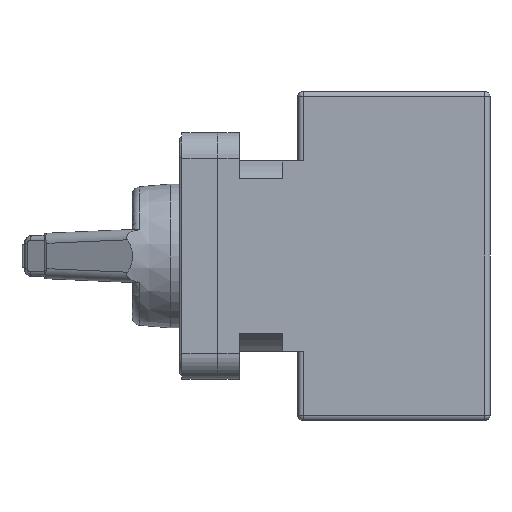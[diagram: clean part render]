
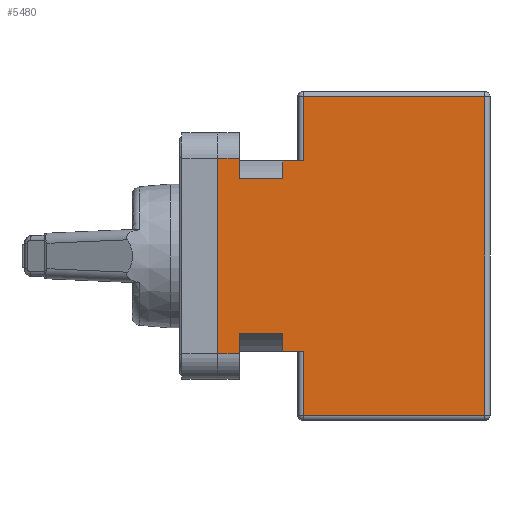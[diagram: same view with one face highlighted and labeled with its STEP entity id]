
A CAD part, left-side view. The second image highlights one B-rep face of the part: STEP entity #5480.
In plain terms, the highlighted planar face has unit normal (-1, 0, 0).
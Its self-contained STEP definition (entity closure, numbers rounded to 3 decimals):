
#1 = ORIENTED_EDGE ( 'NONE', *, *, #8075, .F. ) ;
#186 = ORIENTED_EDGE ( 'NONE', *, *, #699, .F. ) ;
#248 = DIRECTION ( 'NONE',  ( 0., 0., 1. ) ) ;
#278 = DIRECTION ( 'NONE',  ( 0., 1., 0. ) ) ;
#413 = PLANE ( 'NONE',  #4287 ) ;
#692 = VERTEX_POINT ( 'NONE', #13201 ) ;
#699 = EDGE_CURVE ( 'NONE', #10065, #3648, #7241, .T. ) ;
#709 = EDGE_CURVE ( 'NONE', #10572, #12108, #11613, .T. ) ;
#825 = DIRECTION ( 'NONE',  ( 0., 1., 0. ) ) ;
#978 = LINE ( 'NONE', #12048, #6735 ) ;
#1130 = VECTOR ( 'NONE', #1743, 1000. ) ;
#1159 = VECTOR ( 'NONE', #7663, 1000. ) ;
#1298 = DIRECTION ( 'NONE',  ( 0., 0., 1. ) ) ;
#1433 = EDGE_CURVE ( 'NONE', #8106, #1542, #9748, .T. ) ;
#1542 = VERTEX_POINT ( 'NONE', #10440 ) ;
#1643 = VECTOR ( 'NONE', #3227, 1000. ) ;
#1689 = EDGE_CURVE ( 'NONE', #9930, #10065, #9572, .T. ) ;
#1723 = VERTEX_POINT ( 'NONE', #5391 ) ;
#1726 = CARTESIAN_POINT ( 'NONE',  ( -24., 1., -31. ) ) ;
#1736 = ORIENTED_EDGE ( 'NONE', *, *, #709, .T. ) ;
#1743 = DIRECTION ( 'NONE',  ( 0., 1., 0. ) ) ;
#1833 = EDGE_LOOP ( 'NONE', ( #13405, #5772, #5024, #1736, #8441, #3825, #7192, #6399, #6804, #9221, #7552, #1, #13166, #7541, #186, #9654 ) ) ;
#2289 = CARTESIAN_POINT ( 'NONE',  ( -24., 1., 31. ) ) ;
#2575 = DIRECTION ( 'NONE',  ( 0., 0., -1. ) ) ;
#2652 = VECTOR ( 'NONE', #825, 1000. ) ;
#2788 = CARTESIAN_POINT ( 'NONE',  ( -24., 48.8, 18.5 ) ) ;
#2980 = EDGE_CURVE ( 'NONE', #1723, #7812, #7555, .T. ) ;
#3227 = DIRECTION ( 'NONE',  ( 0., 0., 1. ) ) ;
#3252 = CARTESIAN_POINT ( 'NONE',  ( -24., 40.3, 15. ) ) ;
#3315 = LINE ( 'NONE', #4041, #8726 ) ;
#3389 = EDGE_CURVE ( 'NONE', #692, #7289, #12100, .T. ) ;
#3648 = VERTEX_POINT ( 'NONE', #12965 ) ;
#3670 = VECTOR ( 'NONE', #13063, 1000. ) ;
#3675 = VERTEX_POINT ( 'NONE', #11937 ) ;
#3703 = VERTEX_POINT ( 'NONE', #11992 ) ;
#3791 = CARTESIAN_POINT ( 'NONE',  ( -24., 1., 0. ) ) ;
#3825 = ORIENTED_EDGE ( 'NONE', *, *, #12862, .T. ) ;
#4041 = CARTESIAN_POINT ( 'NONE',  ( -24., 53., 19. ) ) ;
#4090 = DIRECTION ( 'NONE',  ( 0., 0., 1. ) ) ;
#4287 = AXIS2_PLACEMENT_3D ( 'NONE', #11153, #9036, #2575 ) ;
#4309 = VECTOR ( 'NONE', #13526, 1000. ) ;
#4390 = EDGE_CURVE ( 'NONE', #3675, #3648, #5603, .T. ) ;
#4534 = DIRECTION ( 'NONE',  ( 0., 0., 1. ) ) ;
#4722 = VERTEX_POINT ( 'NONE', #3252 ) ;
#4938 = CARTESIAN_POINT ( 'NONE',  ( -24., 40.3, 15. ) ) ;
#5024 = ORIENTED_EDGE ( 'NONE', *, *, #12587, .T. ) ;
#5391 = CARTESIAN_POINT ( 'NONE',  ( -24., 40.3, 18.5 ) ) ;
#5480 = ADVANCED_FACE ( 'NONE', ( #13847 ), #413, .F. ) ;
#5560 = DIRECTION ( 'NONE',  ( 0., 0., -1. ) ) ;
#5603 = LINE ( 'NONE', #12071, #8162 ) ;
#5726 = VECTOR ( 'NONE', #1298, 1000. ) ;
#5772 = ORIENTED_EDGE ( 'NONE', *, *, #3389, .T. ) ;
#5888 = CARTESIAN_POINT ( 'NONE',  ( -24., 53., -19. ) ) ;
#5996 = VECTOR ( 'NONE', #8072, 1000. ) ;
#6195 = VECTOR ( 'NONE', #10359, 1000. ) ;
#6276 = CARTESIAN_POINT ( 'NONE',  ( -24., 48.8, 15. ) ) ;
#6399 = ORIENTED_EDGE ( 'NONE', *, *, #13895, .F. ) ;
#6552 = CARTESIAN_POINT ( 'NONE',  ( -24., 0., 31. ) ) ;
#6561 = VECTOR ( 'NONE', #10250, 1000. ) ;
#6565 = LINE ( 'NONE', #6552, #3670 ) ;
#6572 = CARTESIAN_POINT ( 'NONE',  ( -24., 0., -31. ) ) ;
#6603 = EDGE_CURVE ( 'NONE', #4722, #8106, #7225, .T. ) ;
#6660 = EDGE_CURVE ( 'NONE', #13020, #3675, #11599, .T. ) ;
#6735 = VECTOR ( 'NONE', #5560, 1000. ) ;
#6804 = ORIENTED_EDGE ( 'NONE', *, *, #6603, .T. ) ;
#6879 = EDGE_CURVE ( 'NONE', #12108, #3703, #6565, .T. ) ;
#7192 = ORIENTED_EDGE ( 'NONE', *, *, #2980, .F. ) ;
#7220 = CARTESIAN_POINT ( 'NONE',  ( -24., 40.3, -15. ) ) ;
#7225 = LINE ( 'NONE', #4938, #1130 ) ;
#7241 = LINE ( 'NONE', #10105, #11266 ) ;
#7268 = CARTESIAN_POINT ( 'NONE',  ( -24., 53., 19. ) ) ;
#7289 = VERTEX_POINT ( 'NONE', #7399 ) ;
#7308 = VECTOR ( 'NONE', #248, 1000. ) ;
#7399 = CARTESIAN_POINT ( 'NONE',  ( -24., 36.4, -31. ) ) ;
#7541 = ORIENTED_EDGE ( 'NONE', *, *, #4390, .T. ) ;
#7552 = ORIENTED_EDGE ( 'NONE', *, *, #11773, .F. ) ;
#7555 = LINE ( 'NONE', #2788, #4309 ) ;
#7651 = LINE ( 'NONE', #9938, #7308 ) ;
#7663 = DIRECTION ( 'NONE',  ( 0., -1., 0. ) ) ;
#7686 = VERTEX_POINT ( 'NONE', #10381 ) ;
#7812 = VERTEX_POINT ( 'NONE', #10896 ) ;
#8072 = DIRECTION ( 'NONE',  ( 0., 0., -1. ) ) ;
#8075 = EDGE_CURVE ( 'NONE', #13020, #7686, #3315, .T. ) ;
#8106 = VERTEX_POINT ( 'NONE', #6276 ) ;
#8122 = LINE ( 'NONE', #7268, #10284 ) ;
#8162 = VECTOR ( 'NONE', #4534, 1000. ) ;
#8441 = ORIENTED_EDGE ( 'NONE', *, *, #6879, .T. ) ;
#8726 = VECTOR ( 'NONE', #4090, 1000. ) ;
#8748 = LINE ( 'NONE', #11586, #2652 ) ;
#9036 = DIRECTION ( 'NONE',  ( 1., 0., 0. ) ) ;
#9101 = CARTESIAN_POINT ( 'NONE',  ( -24., 40.3, -18.5 ) ) ;
#9146 = CARTESIAN_POINT ( 'NONE',  ( -24., 36.4, 0. ) ) ;
#9221 = ORIENTED_EDGE ( 'NONE', *, *, #1433, .T. ) ;
#9572 = LINE ( 'NONE', #10759, #1643 ) ;
#9654 = ORIENTED_EDGE ( 'NONE', *, *, #1689, .F. ) ;
#9748 = LINE ( 'NONE', #13507, #6561 ) ;
#9930 = VERTEX_POINT ( 'NONE', #9101 ) ;
#9938 = CARTESIAN_POINT ( 'NONE',  ( -24., 40.3, 15. ) ) ;
#10065 = VERTEX_POINT ( 'NONE', #7220 ) ;
#10105 = CARTESIAN_POINT ( 'NONE',  ( -24., 40.3, -15. ) ) ;
#10250 = DIRECTION ( 'NONE',  ( 0., 0., 1. ) ) ;
#10284 = VECTOR ( 'NONE', #13710, 1000. ) ;
#10359 = DIRECTION ( 'NONE',  ( 0., -1., 0. ) ) ;
#10381 = CARTESIAN_POINT ( 'NONE',  ( -24., 53., 19. ) ) ;
#10436 = LINE ( 'NONE', #6572, #1159 ) ;
#10440 = CARTESIAN_POINT ( 'NONE',  ( -24., 48.8, 19. ) ) ;
#10572 = VERTEX_POINT ( 'NONE', #1726 ) ;
#10759 = CARTESIAN_POINT ( 'NONE',  ( -24., 40.3, -15. ) ) ;
#10896 = CARTESIAN_POINT ( 'NONE',  ( -24., 36.4, 18.5 ) ) ;
#11153 = CARTESIAN_POINT ( 'NONE',  ( -24., 0., 0. ) ) ;
#11266 = VECTOR ( 'NONE', #278, 1000. ) ;
#11586 = CARTESIAN_POINT ( 'NONE',  ( -24., 37.4, -18.5 ) ) ;
#11599 = LINE ( 'NONE', #12612, #6195 ) ;
#11613 = LINE ( 'NONE', #3791, #5726 ) ;
#11773 = EDGE_CURVE ( 'NONE', #7686, #1542, #8122, .T. ) ;
#11937 = CARTESIAN_POINT ( 'NONE',  ( -24., 48.8, -19. ) ) ;
#11992 = CARTESIAN_POINT ( 'NONE',  ( -24., 36.4, 31. ) ) ;
#12048 = CARTESIAN_POINT ( 'NONE',  ( -24., 36.4, 0. ) ) ;
#12071 = CARTESIAN_POINT ( 'NONE',  ( -24., 48.8, 19. ) ) ;
#12100 = LINE ( 'NONE', #9146, #5996 ) ;
#12108 = VERTEX_POINT ( 'NONE', #2289 ) ;
#12587 = EDGE_CURVE ( 'NONE', #7289, #10572, #10436, .T. ) ;
#12612 = CARTESIAN_POINT ( 'NONE',  ( -24., 53., -19. ) ) ;
#12862 = EDGE_CURVE ( 'NONE', #3703, #7812, #978, .T. ) ;
#12965 = CARTESIAN_POINT ( 'NONE',  ( -24., 48.8, -15. ) ) ;
#13020 = VERTEX_POINT ( 'NONE', #5888 ) ;
#13063 = DIRECTION ( 'NONE',  ( 0., 1., 0. ) ) ;
#13166 = ORIENTED_EDGE ( 'NONE', *, *, #6660, .T. ) ;
#13201 = CARTESIAN_POINT ( 'NONE',  ( -24., 36.4, -18.5 ) ) ;
#13226 = EDGE_CURVE ( 'NONE', #692, #9930, #8748, .T. ) ;
#13405 = ORIENTED_EDGE ( 'NONE', *, *, #13226, .F. ) ;
#13507 = CARTESIAN_POINT ( 'NONE',  ( -24., 48.8, 19. ) ) ;
#13526 = DIRECTION ( 'NONE',  ( 0., -1., 0. ) ) ;
#13710 = DIRECTION ( 'NONE',  ( 0., -1., 0. ) ) ;
#13847 = FACE_OUTER_BOUND ( 'NONE', #1833, .T. ) ;
#13895 = EDGE_CURVE ( 'NONE', #4722, #1723, #7651, .T. ) ;
